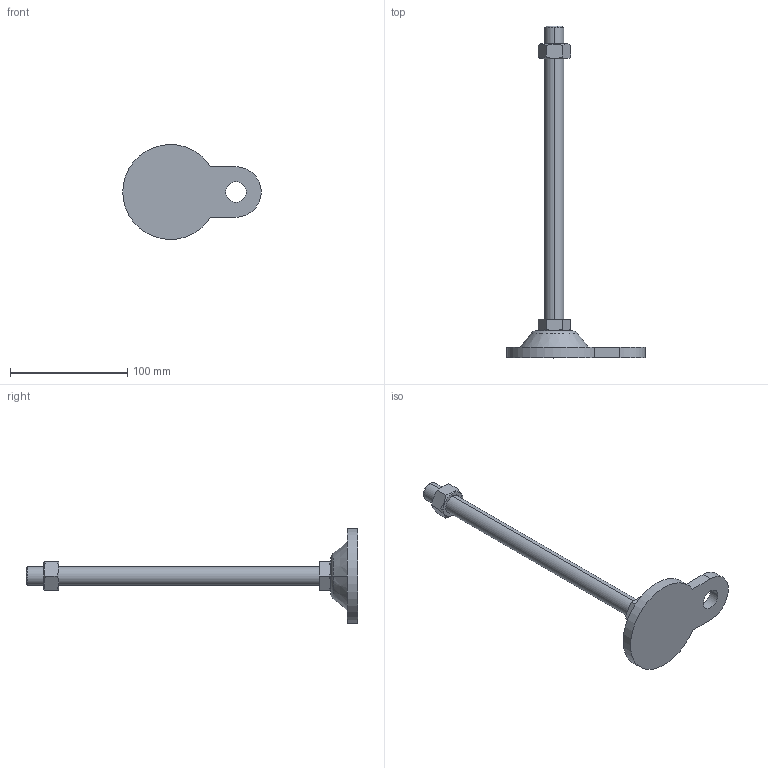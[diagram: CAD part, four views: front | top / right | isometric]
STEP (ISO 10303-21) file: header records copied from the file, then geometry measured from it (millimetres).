
FILE_DESCRIPTION (( 'STEP AP214' ), '1' );
FILE_NAME ('ARB81-M16-250.step', '2021-01-07T07:17:36', ( '' ), ( '' ), 'SwSTEP 2.0', 'SolidWorks 2019', '' );
FILE_SCHEMA (( 'AUTOMOTIVE_DESIGN' ));
Length unit declared in the file: millimetre
Products named in the file (1): ARB81-M16-250
Bounding box: 118 x 283 x 80.98 mm (x, y, z)
Volume: 141620.4 mm3; surface area: 33638.1 mm2
Topology: 3 solids, 3 shells, 46 faces, 100 edges, 62 vertices
Faces by surface type: plane 22, cone 14, cylinder 8, torus 2
Entity records: 1470 total; most frequent: CARTESIAN_POINT 407, DIRECTION 212, ORIENTED_EDGE 200, EDGE_CURVE 100, AXIS2_PLACEMENT_3D 83, VERTEX_POINT 62, EDGE_LOOP 52, LINE 46
